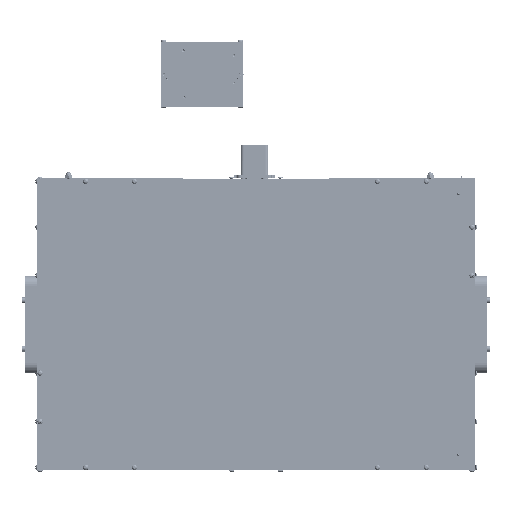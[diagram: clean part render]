
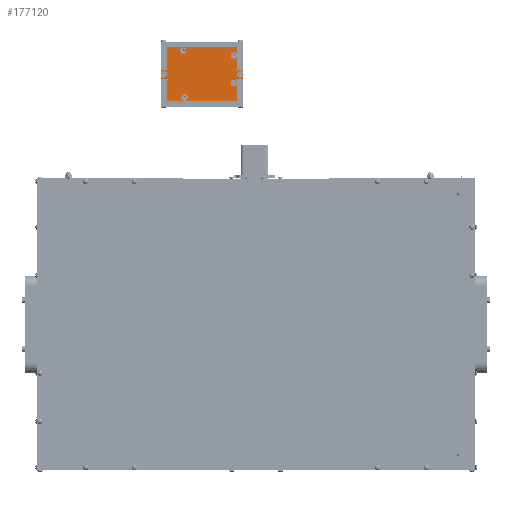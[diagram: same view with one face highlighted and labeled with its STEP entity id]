
A CAD part, front view. The second image highlights one B-rep face of the part: STEP entity #177120.
In plain terms, the highlighted planar face has unit normal (0, -1, 0) as drawn and (0, 0, -1) by its records, which use the part's own axes.
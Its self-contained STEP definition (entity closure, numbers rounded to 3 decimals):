
#9346=FACE_BOUND('',#35671,.T.);
#9347=FACE_BOUND('',#35672,.T.);
#9348=FACE_BOUND('',#35673,.T.);
#9349=FACE_BOUND('',#35674,.T.);
#13219=CIRCLE('',#191082,3.255);
#13220=CIRCLE('',#191083,3.255);
#13222=CIRCLE('',#191096,3.255);
#13223=CIRCLE('',#191107,3.255);
#13237=CIRCLE('',#191133,3.255);
#13238=CIRCLE('',#191143,3.255);
#13240=CIRCLE('',#191156,3.255);
#13241=CIRCLE('',#191166,1.);
#13242=CIRCLE('',#191168,1.);
#13243=CIRCLE('',#191170,1.);
#13244=CIRCLE('',#191172,1.);
#25144=FACE_OUTER_BOUND('',#35670,.T.);
#35670=EDGE_LOOP('',(#161615,#161616,#161617,#161618,#161619,#161620,#161621,
#161622,#161623,#161624,#161625,#161626,#161627,#161628,#161629,#161630,
#161631,#161632,#161633,#161634,#161635));
#35671=EDGE_LOOP('',(#161636));
#35672=EDGE_LOOP('',(#161637));
#35673=EDGE_LOOP('',(#161638));
#35674=EDGE_LOOP('',(#161639));
#52132=LINE('',#399139,#68754);
#52136=LINE('',#399146,#68758);
#52155=LINE('',#409721,#68777);
#52159=LINE('',#409728,#68781);
#52251=LINE('',#452285,#68873);
#52252=LINE('',#452287,#68874);
#52254=LINE('',#452291,#68876);
#52255=LINE('',#452294,#68877);
#52256=LINE('',#452295,#68878);
#52257=LINE('',#452296,#68879);
#52258=LINE('',#452297,#68880);
#52259=LINE('',#452299,#68881);
#52260=LINE('',#452300,#68882);
#52261=LINE('',#452301,#68883);
#68754=VECTOR('',#233299,10.);
#68758=VECTOR('',#233303,10.);
#68777=VECTOR('',#233348,10.);
#68781=VECTOR('',#233352,10.);
#68873=VECTOR('',#233580,10.);
#68874=VECTOR('',#233583,10.);
#68876=VECTOR('',#233587,10.);
#68877=VECTOR('',#233590,10.);
#68878=VECTOR('',#233591,10.);
#68879=VECTOR('',#233592,10.);
#68880=VECTOR('',#233593,10.);
#68881=VECTOR('',#233594,10.);
#68882=VECTOR('',#233595,10.);
#68883=VECTOR('',#233596,10.);
#85347=VERTEX_POINT('',#389208);
#85348=VERTEX_POINT('',#389210);
#85349=VERTEX_POINT('',#389212);
#85382=VERTEX_POINT('',#399138);
#85385=VERTEX_POINT('',#399144);
#85395=VERTEX_POINT('',#399788);
#85396=VERTEX_POINT('',#399792);
#85429=VERTEX_POINT('',#409720);
#85432=VERTEX_POINT('',#409726);
#85440=VERTEX_POINT('',#410355);
#85520=VERTEX_POINT('',#421121);
#85558=VERTEX_POINT('',#431678);
#85616=VERTEX_POINT('',#442337);
#85649=VERTEX_POINT('',#452259);
#85650=VERTEX_POINT('',#452260);
#85651=VERTEX_POINT('',#452265);
#85652=VERTEX_POINT('',#452266);
#85653=VERTEX_POINT('',#452271);
#85654=VERTEX_POINT('',#452272);
#85655=VERTEX_POINT('',#452277);
#85656=VERTEX_POINT('',#452278);
#85657=VERTEX_POINT('',#452283);
#85658=VERTEX_POINT('',#452289);
#85659=VERTEX_POINT('',#452293);
#85660=VERTEX_POINT('',#452298);
#110652=EDGE_CURVE('',#85348,#85347,#13219,.T.);
#110654=EDGE_CURVE('',#85347,#85349,#13220,.T.);
#110705=EDGE_CURVE('',#85382,#85348,#52132,.T.);
#110709=EDGE_CURVE('',#85349,#85385,#52136,.T.);
#110721=EDGE_CURVE('',#85396,#85395,#13222,.T.);
#110773=EDGE_CURVE('',#85429,#85396,#52155,.T.);
#110777=EDGE_CURVE('',#85395,#85432,#52159,.T.);
#110785=EDGE_CURVE('',#85440,#85440,#13223,.T.);
#110889=EDGE_CURVE('',#85520,#85520,#13237,.T.);
#110946=EDGE_CURVE('',#85558,#85558,#13238,.T.);
#111025=EDGE_CURVE('',#85616,#85616,#13240,.T.);
#111076=EDGE_CURVE('',#85649,#85650,#13241,.T.);
#111079=EDGE_CURVE('',#85651,#85652,#13242,.T.);
#111082=EDGE_CURVE('',#85653,#85654,#13243,.T.);
#111085=EDGE_CURVE('',#85655,#85656,#13244,.T.);
#111089=EDGE_CURVE('',#85657,#85654,#52251,.T.);
#111090=EDGE_CURVE('',#85385,#85653,#52252,.T.);
#111092=EDGE_CURVE('',#85656,#85658,#52254,.T.);
#111093=EDGE_CURVE('',#85657,#85659,#52255,.T.);
#111094=EDGE_CURVE('',#85659,#85651,#52256,.T.);
#111095=EDGE_CURVE('',#85652,#85429,#52257,.T.);
#111096=EDGE_CURVE('',#85432,#85655,#52258,.T.);
#111097=EDGE_CURVE('',#85658,#85660,#52259,.T.);
#111098=EDGE_CURVE('',#85649,#85660,#52260,.T.);
#111099=EDGE_CURVE('',#85650,#85382,#52261,.T.);
#161615=ORIENTED_EDGE('',*,*,#110652,.T.);
#161616=ORIENTED_EDGE('',*,*,#110654,.T.);
#161617=ORIENTED_EDGE('',*,*,#110709,.T.);
#161618=ORIENTED_EDGE('',*,*,#111090,.T.);
#161619=ORIENTED_EDGE('',*,*,#111082,.T.);
#161620=ORIENTED_EDGE('',*,*,#111089,.F.);
#161621=ORIENTED_EDGE('',*,*,#111093,.T.);
#161622=ORIENTED_EDGE('',*,*,#111094,.T.);
#161623=ORIENTED_EDGE('',*,*,#111079,.T.);
#161624=ORIENTED_EDGE('',*,*,#111095,.T.);
#161625=ORIENTED_EDGE('',*,*,#110773,.T.);
#161626=ORIENTED_EDGE('',*,*,#110721,.T.);
#161627=ORIENTED_EDGE('',*,*,#110777,.T.);
#161628=ORIENTED_EDGE('',*,*,#111096,.T.);
#161629=ORIENTED_EDGE('',*,*,#111085,.T.);
#161630=ORIENTED_EDGE('',*,*,#111092,.T.);
#161631=ORIENTED_EDGE('',*,*,#111097,.T.);
#161632=ORIENTED_EDGE('',*,*,#111098,.F.);
#161633=ORIENTED_EDGE('',*,*,#111076,.T.);
#161634=ORIENTED_EDGE('',*,*,#111099,.T.);
#161635=ORIENTED_EDGE('',*,*,#110705,.T.);
#161636=ORIENTED_EDGE('',*,*,#110785,.T.);
#161637=ORIENTED_EDGE('',*,*,#110889,.T.);
#161638=ORIENTED_EDGE('',*,*,#110946,.T.);
#161639=ORIENTED_EDGE('',*,*,#111025,.T.);
#167615=PLANE('',#191176);
#177120=ADVANCED_FACE('',(#25144,#9346,#9347,#9348,#9349),#167615,.F.);
#191082=AXIS2_PLACEMENT_3D('',#389211,#233261,#233262);
#191083=AXIS2_PLACEMENT_3D('',#389216,#233263,#233264);
#191096=AXIS2_PLACEMENT_3D('',#399793,#233312,#233313);
#191107=AXIS2_PLACEMENT_3D('',#410357,#233356,#233357);
#191133=AXIS2_PLACEMENT_3D('',#421123,#233437,#233438);
#191143=AXIS2_PLACEMENT_3D('',#431680,#233474,#233475);
#191156=AXIS2_PLACEMENT_3D('',#442339,#233519,#233520);
#191166=AXIS2_PLACEMENT_3D('',#452261,#233555,#233556);
#191168=AXIS2_PLACEMENT_3D('',#452267,#233561,#233562);
#191170=AXIS2_PLACEMENT_3D('',#452273,#233567,#233568);
#191172=AXIS2_PLACEMENT_3D('',#452279,#233573,#233574);
#191176=AXIS2_PLACEMENT_3D('',#452292,#233588,#233589);
#233261=DIRECTION('center_axis',(0.,0.,1.));
#233262=DIRECTION('ref_axis',(0.,-1.,0.));
#233263=DIRECTION('center_axis',(0.,0.,1.));
#233264=DIRECTION('ref_axis',(0.,-1.,0.));
#233299=DIRECTION('',(-1.,0.,0.));
#233303=DIRECTION('',(-1.,0.,0.));
#233312=DIRECTION('center_axis',(0.,0.,1.));
#233313=DIRECTION('ref_axis',(0.,-1.,0.));
#233348=DIRECTION('',(1.,0.,0.));
#233352=DIRECTION('',(1.,0.,0.));
#233356=DIRECTION('center_axis',(0.,0.,1.));
#233357=DIRECTION('ref_axis',(0.,-1.,0.));
#233437=DIRECTION('center_axis',(0.,0.,1.));
#233438=DIRECTION('ref_axis',(0.,-1.,0.));
#233474=DIRECTION('center_axis',(0.,0.,1.));
#233475=DIRECTION('ref_axis',(0.,-1.,0.));
#233519=DIRECTION('center_axis',(0.,0.,1.));
#233520=DIRECTION('ref_axis',(0.,-1.,0.));
#233555=DIRECTION('center_axis',(0.,0.,1.));
#233556=DIRECTION('ref_axis',(1.,0.,0.));
#233561=DIRECTION('center_axis',(0.,0.,1.));
#233562=DIRECTION('ref_axis',(1.,0.,0.));
#233567=DIRECTION('center_axis',(0.,0.,1.));
#233568=DIRECTION('ref_axis',(1.,0.,0.));
#233573=DIRECTION('center_axis',(0.,0.,1.));
#233574=DIRECTION('ref_axis',(1.,0.,0.));
#233580=DIRECTION('',(1.,0.,0.));
#233583=DIRECTION('',(0.,1.,0.));
#233587=DIRECTION('',(1.,0.,0.));
#233588=DIRECTION('center_axis',(0.,0.,1.));
#233589=DIRECTION('ref_axis',(1.,0.,0.));
#233590=DIRECTION('',(0.,1.,0.));
#233591=DIRECTION('',(1.,0.,0.));
#233592=DIRECTION('',(0.,1.,0.));
#233593=DIRECTION('',(0.,-1.,0.));
#233594=DIRECTION('',(0.,-1.,0.));
#233595=DIRECTION('',(1.,0.,0.));
#233596=DIRECTION('',(0.,-1.,0.));
#389208=CARTESIAN_POINT('',(30.154,2.255,-7.2));
#389210=CARTESIAN_POINT('',(31.291,-4.05,-7.2));
#389211=CARTESIAN_POINT('Origin',(30.154,-1.,-7.2));
#389212=CARTESIAN_POINT('',(29.017,-4.05,-7.2));
#389216=CARTESIAN_POINT('Origin',(30.154,-1.,-7.2));
#399138=CARTESIAN_POINT('',(35.107,-4.05,-7.2));
#399139=CARTESIAN_POINT('',(25.107,-4.05,-7.2));
#399144=CARTESIAN_POINT('',(25.107,-4.05,-7.2));
#399146=CARTESIAN_POINT('',(25.107,-4.05,-7.2));
#399788=CARTESIAN_POINT('',(31.417,80.6,-7.2));
#399792=CARTESIAN_POINT('',(28.891,80.6,-7.2));
#399793=CARTESIAN_POINT('Origin',(30.154,77.6,-7.2));
#409720=CARTESIAN_POINT('',(25.107,80.6,-7.2));
#409721=CARTESIAN_POINT('',(25.107,80.6,-7.2));
#409726=CARTESIAN_POINT('',(35.107,80.6,-7.2));
#409728=CARTESIAN_POINT('',(25.107,80.6,-7.2));
#410355=CARTESIAN_POINT('',(21.354,74.355,-7.2));
#410357=CARTESIAN_POINT('Origin',(21.354,71.1,-7.2));
#421121=CARTESIAN_POINT('',(49.454,74.355,-7.2));
#421123=CARTESIAN_POINT('Origin',(49.454,71.1,-7.2));
#431678=CARTESIAN_POINT('',(54.454,22.155,-7.2));
#431680=CARTESIAN_POINT('Origin',(54.454,18.9,-7.2));
#442337=CARTESIAN_POINT('',(6.254,23.455,-7.2));
#442339=CARTESIAN_POINT('Origin',(6.254,20.2,-7.2));
#452259=CARTESIAN_POINT('',(36.107,1.95,-7.2));
#452260=CARTESIAN_POINT('',(35.107,0.95,-7.2));
#452261=CARTESIAN_POINT('Origin',(35.107,1.95,-7.2));
#452265=CARTESIAN_POINT('',(24.107,74.6,-7.2));
#452266=CARTESIAN_POINT('',(25.107,75.6,-7.2));
#452267=CARTESIAN_POINT('Origin',(25.107,74.6,-7.2));
#452271=CARTESIAN_POINT('',(25.107,0.95,-7.2));
#452272=CARTESIAN_POINT('',(24.107,1.95,-7.2));
#452273=CARTESIAN_POINT('Origin',(25.107,1.95,-7.2));
#452277=CARTESIAN_POINT('',(35.107,75.6,-7.2));
#452278=CARTESIAN_POINT('',(36.107,74.6,-7.2));
#452279=CARTESIAN_POINT('Origin',(35.107,74.6,-7.2));
#452283=CARTESIAN_POINT('',(2.756,1.95,-7.2));
#452285=CARTESIAN_POINT('',(16.506,1.95,-7.2));
#452287=CARTESIAN_POINT('',(25.107,1.95,-7.2));
#452289=CARTESIAN_POINT('',(57.756,74.6,-7.2));
#452291=CARTESIAN_POINT('',(57.756,74.6,-7.2));
#452292=CARTESIAN_POINT('Origin',(30.256,38.275,-7.2));
#452293=CARTESIAN_POINT('',(2.756,74.6,-7.2));
#452294=CARTESIAN_POINT('',(2.756,74.6,-7.2));
#452295=CARTESIAN_POINT('',(57.756,74.6,-7.2));
#452296=CARTESIAN_POINT('',(25.107,74.6,-7.2));
#452297=CARTESIAN_POINT('',(35.107,80.6,-7.2));
#452298=CARTESIAN_POINT('',(57.756,1.95,-7.2));
#452299=CARTESIAN_POINT('',(57.756,1.95,-7.2));
#452300=CARTESIAN_POINT('',(16.506,1.95,-7.2));
#452301=CARTESIAN_POINT('',(35.107,-4.05,-7.2));
